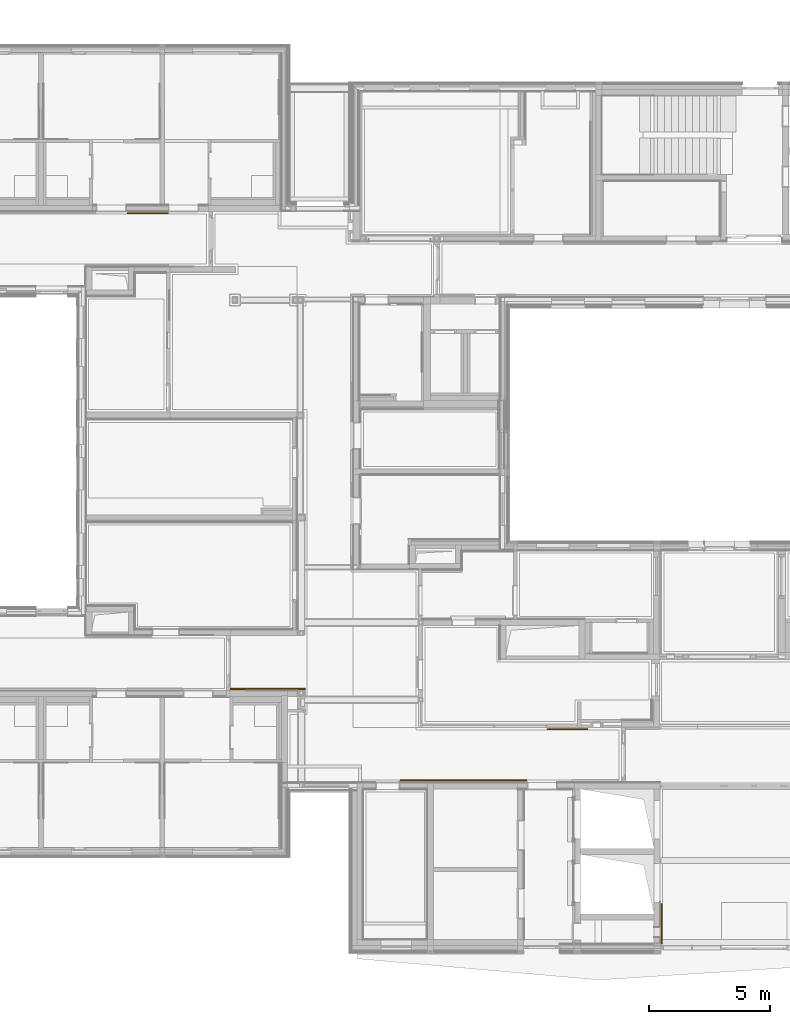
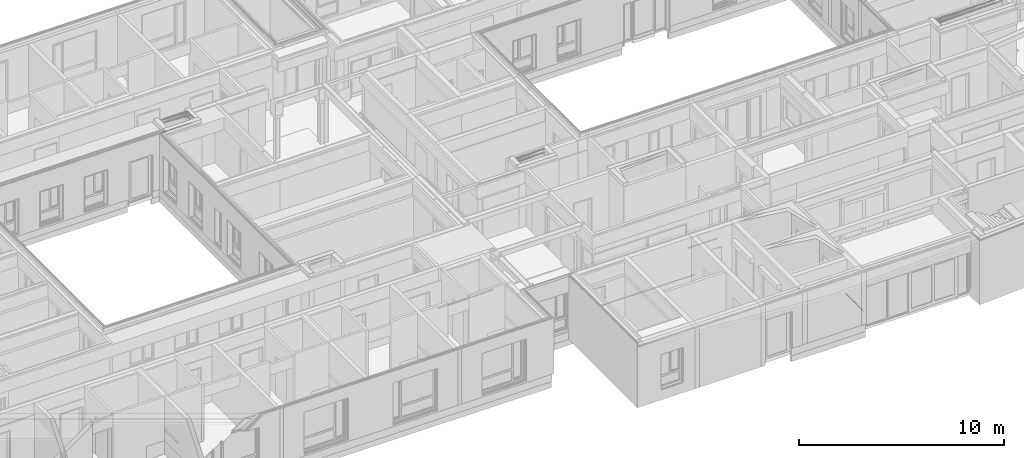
# One storey, part 196 of 207: 5 railings, 5 elements without a shape of their own.
"""IFC4 building model written with IfcOpenShell, lengths in metres."""

import ifcopenshell
import ifcopenshell.guid

model = None  # the IFC model being written
_history = None  # IfcOwnerHistory: only IFC2X3 demands one
_inside = {}  # id of a spatial element -> (the spatial element, [elements in it])
_under = {}  # id of a project, library or spatial element -> (it, [spatial elements below it])
_declared = {}  # id of a project -> (the project, [libraries it declares])
_typed = {}  # id of a type object -> (the type object, [elements of that type])
_made_of = {}  # id of a material, layer set ... -> (it, [elements and type objects made of it])


def new_model(schema):
    """Start an empty IFC model of exactly this schema.

    Asked for "IFC4X3", IfcOpenShell would pick the latest addendum, in which some entities
    have other attributes; the version numbers below select the first issue.
    IFC2X3 requires an IfcOwnerHistory on every rooted entity: one is made here for all.
    """
    global model, _history
    if schema == "IFC4X3":
        model = ifcopenshell.file(schema_version=(4, 3, 0, 0))
    else:
        model = ifcopenshell.file(schema=schema)
    _inside.clear()
    _under.clear()
    _declared.clear()
    _typed.clear()
    _made_of.clear()
    _history = None
    if model.schema == "IFC2X3":
        org = make("IfcOrganization", Name="unknown")
        user = make(
            "IfcPersonAndOrganization",
            ThePerson=make("IfcPerson", FamilyName="unknown"),
            TheOrganization=org,
        )
        app = make(
            "IfcApplication",
            ApplicationDeveloper=org,
            Version="unknown",
            ApplicationFullName="unknown",
            ApplicationIdentifier="unknown",
        )
        _history = make(
            "IfcOwnerHistory",
            OwningUser=user,
            OwningApplication=app,
            ChangeAction="ADDED",
            CreationDate=0,
        )
    return model


def make(cls, **values):
    """One entity of the class cls with the attributes given. An attribute that is None is left unset."""
    return model.create_entity(
        cls, **{name: value for name, value in values.items() if value is not None}
    )


def entity(cls, *values):
    """Any entity or typed value of the class cls, its attributes in the order of the schema. None: left unset."""
    e = model.create_entity(cls)
    for i, value in enumerate(values):
        if value is not None:
            e[i] = value
    return e


def rooted(cls, **values):
    """An entity with a GlobalId (a new one), such as an element, a storey or a relation."""
    return make(cls, GlobalId=ifcopenshell.guid.new(), OwnerHistory=_history, **values)


def si_unit(unit_type, name, prefix=None):
    """IfcSIUnit, for example si_unit("LENGTHUNIT", "METRE", prefix="MILLI")."""
    return make("IfcSIUnit", UnitType=unit_type, Prefix=prefix, Name=name)


def converted_unit(unit_type, name, factor, base, dimensions=None, offset=None):
    """IfcConversionBasedUnit, such as the inch: factor (a typed value) times the base unit."""
    return make(
        "IfcConversionBasedUnit"
        if offset is None
        else "IfcConversionBasedUnitWithOffset",
        ConversionOffset=offset,
        Dimensions=None
        if dimensions is None
        else entity("IfcDimensionalExponents", *dimensions),
        UnitType=unit_type,
        Name=name,
        ConversionFactor=make(
            "IfcMeasureWithUnit", ValueComponent=factor, UnitComponent=base
        ),
    )


def derived_unit(unit_type, elements):
    """IfcDerivedUnit: a product of units, each with its exponent."""
    return make(
        "IfcDerivedUnit",
        Elements=[
            make("IfcDerivedUnitElement", Unit=unit, Exponent=power)
            for unit, power in elements
        ],
        UnitType=unit_type,
    )


def assignment(units):
    """IfcUnitAssignment: the units of a project."""
    return None if units is None else make("IfcUnitAssignment", Units=units)


def point(xyz):
    """IfcCartesianPoint."""
    return None if xyz is None else make("IfcCartesianPoint", Coordinates=xyz)


def direction(xyz):
    """IfcDirection."""
    return None if xyz is None else make("IfcDirection", DirectionRatios=xyz)


def frame(location, z_axis=None, x_axis=None):
    """IfcAxis2Placement3D, a coordinate frame: its origin and axes. An axis left out is left unset."""
    return make(
        "IfcAxis2Placement3D",
        Location=point(location),
        Axis=direction(z_axis),
        RefDirection=direction(x_axis),
    )


def origin():
    """The frame at (0, 0, 0) with its axes left unset."""
    return frame((0.0, 0.0, 0.0))


def place(relative_to, where):
    """IfcLocalPlacement: puts the frame where relative to a parent placement (None: the world)."""
    return make(
        "IfcLocalPlacement", PlacementRelTo=relative_to, RelativePlacement=where
    )


def context(
    kind, dimensions, precision=None, world=None, true_north=None, identifier=None
):
    """IfcGeometricRepresentationContext, for example the 3D "Model" context."""
    return make(
        "IfcGeometricRepresentationContext",
        ContextIdentifier=identifier,
        ContextType=kind,
        CoordinateSpaceDimension=dimensions,
        Precision=precision,
        WorldCoordinateSystem=world,
        TrueNorth=true_north,
    )


def subcontext(parent, identifier, kind, view, scale=None):
    """IfcGeometricRepresentationSubContext, for example "Body" below "Model"."""
    return make(
        "IfcGeometricRepresentationSubContext",
        ContextIdentifier=identifier,
        ContextType=kind,
        ParentContext=parent,
        TargetScale=scale,
        TargetView=view,
    )


def project(units=None, contexts=None):
    """IfcProject with its units and contexts."""
    return rooted(
        "IfcProject",
        Name="project",
        RepresentationContexts=contexts,
        UnitsInContext=assignment(units),
    )


def spatial(cls, under=None, at=None, **own):
    """A site, building, storey or space (cls), placed at a placement, below another one or the project."""
    s = rooted(cls, ObjectPlacement=at, **own)
    if under is not None:
        _under.setdefault(under.id(), (under, []))[1].append(s)
    return s


def faces_of(points, faces, orient=None, outer=None):
    """IfcFace entities. A face is a list of loops; a loop is a list of indices into points, from 0.

    orient and outer hold one flag for each loop. By default every Orientation is true, the
    first loop of a face is its IfcFaceOuterBound and the others are IfcFaceBound.
    """
    made = []
    for i, loops in enumerate(faces):
        bounds = []
        for j, loop in enumerate(loops):
            is_outer = j == 0 if outer is None else outer[i][j]
            bounds.append(
                make(
                    "IfcFaceOuterBound" if is_outer else "IfcFaceBound",
                    Bound=make("IfcPolyLoop", Polygon=[points[k] for k in loop]),
                    Orientation=True if orient is None else orient[i][j],
                )
            )
        made.append(make("IfcFace", Bounds=bounds))
    return made


def faceted_brep(points, faces, orient=None, outer=None, voids=None):
    """IfcFacetedBrep: a solid bounded by flat faces; with voids (closed shells), ...WithVoids."""
    shared = [point(p) for p in points]
    hull = make("IfcClosedShell", CfsFaces=faces_of(shared, faces, orient, outer))
    if voids is None:
        return make("IfcFacetedBrep", Outer=hull)
    return make(
        "IfcFacetedBrepWithVoids",
        Outer=hull,
        Voids=[
            make(cls, CfsFaces=faces_of(shared, fs, o, b)) for cls, fs, o, b in voids
        ],
    )


def shape(context_of_items, identifier, shape_type, items):
    """IfcShapeRepresentation: the items that make up one representation, for example the "Body"."""
    return make(
        "IfcShapeRepresentation",
        ContextOfItems=context_of_items,
        RepresentationIdentifier=identifier,
        RepresentationType=shape_type,
        Items=items,
    )


def material(Name=None, Category=None):
    """IfcMaterial."""
    return make("IfcMaterial", Name=Name, Category=Category)


def made_of(thing, what):
    """Note that an element or type object is made of a material, layer set ...; save() writes the relation."""
    if what is not None:
        _made_of.setdefault(what.id(), (what, []))[1].append(thing)
    return thing


def element(
    cls,
    number,
    at=None,
    inside=None,
    cuts=None,
    type_object=None,
    material=None,
    context=None,
    identifier="Body",
    shape_type=None,
    held_by="IfcProductDefinitionShape",
    body=None,
    shapes=None,
    **own,
):
    """One element of the class cls, such as IfcWall. Its Tag is "e" and its number.

    at: its placement. inside: the storey or other place that contains it. cuts: it is an
    opening in that element (IfcRelVoidsElement). A single representation is given by context,
    identifier, shape_type and body (its items); several are given by shapes. held_by: the class
    of the entity that holds the representations. save() writes the other relations.
    """
    e = rooted(cls, Tag="e%d" % number, ObjectPlacement=at, **own)
    if body is not None:
        shapes = [shape(context, identifier, shape_type, body)]
    if shapes is not None:
        e.Representation = make(held_by, Representations=shapes)
    if inside is not None:
        _inside.setdefault(inside.id(), (inside, []))[1].append(e)
    if cuts is not None:
        rooted(
            "IfcRelVoidsElement", RelatingBuildingElement=cuts, RelatedOpeningElement=e
        )
    if type_object is not None:
        _typed.setdefault(type_object.id(), (type_object, []))[1].append(e)
    return made_of(e, material)


def aggregate(whole, parts):
    """IfcRelAggregates: a whole, such as a stair, and the parts it consists of."""
    return rooted("IfcRelAggregates", RelatingObject=whole, RelatedObjects=parts)


def save(model, path):
    """Write the relations noted so far, then the file.

    IfcRelAggregates (storeys below a building ...), IfcRelContainedInSpatialStructure (elements
    in a storey), IfcRelDefinesByType, IfcRelAssociatesMaterial and IfcRelDeclares: one each for
    every whole, place, type object, material and project.
    """
    for whole, parts in _under.values():
        aggregate(whole, parts)
    for where, things in _inside.values():
        rooted(
            "IfcRelContainedInSpatialStructure",
            RelatedElements=things,
            RelatingStructure=where,
        )
    for kind, things in _typed.values():
        rooted("IfcRelDefinesByType", RelatedObjects=things, RelatingType=kind)
    for what, things in _made_of.values():
        rooted("IfcRelAssociatesMaterial", RelatedObjects=things, RelatingMaterial=what)
    for by, libraries in _declared.values():
        rooted("IfcRelDeclares", RelatingContext=by, RelatedDefinitions=libraries)
    model.write(path)


model = new_model("IFC4")

# Units and contexts
model_context = context("Model", 3, precision=1e-05, world=origin())
body_context = subcontext(model_context, "Body", "Model", "MODEL_VIEW")
ifc_project = project(units=[si_unit("LENGTHUNIT", "METRE"), si_unit("AREAUNIT", "SQUARE_METRE"), si_unit("VOLUMEUNIT", "CUBIC_METRE"), si_unit("MASSUNIT", "GRAM", prefix="KILO"), converted_unit("PLANEANGLEUNIT", "DEGREE", entity("IfcPlaneAngleMeasure", 0.0174532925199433), si_unit("PLANEANGLEUNIT", "RADIAN"), dimensions=[0, 0, 0, 0, 0, 0, 0]), derived_unit("THERMALTRANSMITTANCEUNIT", [(si_unit("POWERUNIT", "WATT"), 1), (si_unit("THERMODYNAMICTEMPERATUREUNIT", "KELVIN"), -1), (si_unit("LENGTHUNIT", "METRE"), -2)]), derived_unit("VOLUMETRICFLOWRATEUNIT", [(si_unit("LENGTHUNIT", "METRE"), 3), (converted_unit("TIMEUNIT", "hour", entity("IfcTimeMeasure", 3600.0), si_unit("TIMEUNIT", "SECOND"), dimensions=[0, 0, 1, 0, 0, 0, 0]), -1), (si_unit("LENGTHUNIT", "METRE"), -1)])], contexts=[model_context])

# Site, building, storey
site_placement = place(None, origin())
site = spatial("IfcSite", under=ifc_project, at=site_placement, Name="Psychiatrie Neubau Wunstorf", CompositionType="ELEMENT")
building_placement = place(site_placement, origin())
building = spatial("IfcBuilding", under=site, at=building_placement, Name="Neubau H2 Stationsgebäude", CompositionType="ELEMENT")
storey_placement = place(building_placement, frame((0.0, 0.0, -0.2)))
storey = spatial("IfcBuildingStorey", under=building, at=storey_placement, Name="H2 Ebene 0", CompositionType="ELEMENT", Elevation=-0.2)

# Assembly, railing
assembly_1_placement = place(storey_placement, frame((0.0, 0.0, 0.2)))
assembly_1 = element("IfcElementAssembly", 1, at=assembly_1_placement, inside=storey, Name="Geländer+Abstand", PredefinedType="NOTDEFINED")
ifc_material_1 = material(Name="Holz")
railing_1_placement = place(assembly_1_placement, frame((28.55, 24.0175000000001, 0.8)))
railing_1 = element("IfcRailing", 2, at=railing_1_placement, material=ifc_material_1, context=body_context, shape_type="Brep", body=[
    faceted_brep([(0.0, 0.025, 0.000103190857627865), (0.0, 0.0293232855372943, 0.000481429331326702), (0.0, 0.0335152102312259, 0.00160465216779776), (0.0, 0.0374484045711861, 0.00343873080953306), (0.0, 0.0410033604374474, 0.00592793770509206), (0.0, 0.0440720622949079, 0.00899663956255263), (0.0, 0.0465612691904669, 0.0125515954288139), (0.0, 0.0483953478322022, 0.0164847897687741), (0.0, 0.0495185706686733, 0.0206767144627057), (0.0, 0.0498968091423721, 0.025), (0.0, 0.0495185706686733, 0.0293232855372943), (0.0, 0.0483953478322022, 0.0335152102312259), (0.0, 0.0465612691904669, 0.0374484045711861), (0.0, 0.0440720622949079, 0.0410033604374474), (0.0, 0.0410033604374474, 0.0440720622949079), (0.0, 0.0374484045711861, 0.0465612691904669), (0.0, 0.0335152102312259, 0.0483953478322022), (0.0, 0.0293232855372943, 0.0495185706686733), (0.0, 0.025, 0.0498968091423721), (0.0, 0.0206767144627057, 0.0495185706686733), (0.0, 0.0164847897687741, 0.0483953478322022), (0.0, 0.0125515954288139, 0.0465612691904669), (0.0, 0.00899663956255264, 0.044072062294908), (0.0, 0.00592793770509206, 0.0410033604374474), (0.0, 0.00343873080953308, 0.0374484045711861), (0.0, 0.00160465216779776, 0.0335152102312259), (0.0, 0.000481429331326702, 0.0293232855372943), (0.0, 0.000103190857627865, 0.025), (0.0, 0.000481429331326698, 0.0206767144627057), (0.0, 0.00160465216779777, 0.0164847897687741), (0.0, 0.00343873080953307, 0.0125515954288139), (0.0, 0.00592793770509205, 0.00899663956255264), (0.0, 0.00899663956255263, 0.00592793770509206), (0.0, 0.0125515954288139, 0.00343873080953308), (0.0, 0.0164847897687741, 0.00160465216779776), (0.0, 0.0206767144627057, 0.000481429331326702), (1.68901332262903, 0.025, 0.000103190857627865), (1.68901332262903, 0.0206767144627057, 0.000481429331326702), (1.68901332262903, 0.0164847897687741, 0.00160465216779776), (1.68901332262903, 0.0125515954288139, 0.00343873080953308), (1.68901332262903, 0.00899663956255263, 0.00592793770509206), (1.68901332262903, 0.00592793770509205, 0.00899663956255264), (1.68901332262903, 0.00343873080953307, 0.0125515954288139), (1.68901332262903, 0.00160465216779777, 0.0164847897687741), (1.68901332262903, 0.000481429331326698, 0.0206767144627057), (1.68901332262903, 0.000103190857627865, 0.025), (1.68901332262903, 0.000481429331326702, 0.0293232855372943), (1.68901332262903, 0.00160465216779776, 0.0335152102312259), (1.68901332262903, 0.00343873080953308, 0.0374484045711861), (1.68901332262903, 0.00592793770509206, 0.0410033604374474), (1.68901332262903, 0.00899663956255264, 0.044072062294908), (1.68901332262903, 0.0125515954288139, 0.0465612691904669), (1.68901332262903, 0.0164847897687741, 0.0483953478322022), (1.68901332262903, 0.0206767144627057, 0.0495185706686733), (1.68901332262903, 0.025, 0.0498968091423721), (1.68901332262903, 0.0293232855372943, 0.0495185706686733), (1.68901332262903, 0.0335152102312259, 0.0483953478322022), (1.68901332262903, 0.0374484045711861, 0.0465612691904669), (1.68901332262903, 0.0410033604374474, 0.0440720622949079), (1.68901332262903, 0.0440720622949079, 0.0410033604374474), (1.68901332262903, 0.0465612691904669, 0.0374484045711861), (1.68901332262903, 0.0483953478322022, 0.0335152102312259), (1.68901332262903, 0.0495185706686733, 0.0293232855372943), (1.68901332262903, 0.0498968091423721, 0.025), (1.68901332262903, 0.0495185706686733, 0.0206767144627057), (1.68901332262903, 0.0483953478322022, 0.0164847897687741), (1.68901332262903, 0.0465612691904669, 0.0125515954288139), (1.68901332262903, 0.0440720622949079, 0.00899663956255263), (1.68901332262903, 0.0410033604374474, 0.00592793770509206), (1.68901332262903, 0.0374484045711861, 0.00343873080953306), (1.68901332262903, 0.0335152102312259, 0.00160465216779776), (1.68901332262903, 0.0293232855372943, 0.000481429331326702)], [[[0, 1, 2, 3, 4, 5, 6, 7, 8, 9, 10, 11, 12, 13, 14, 15, 16, 17, 18, 19, 20, 21, 22, 23, 24, 25, 26, 27, 28, 29, 30, 31, 32, 33, 34, 35]], [[36, 37, 38, 39, 40, 41, 42, 43, 44, 45, 46, 47, 48, 49, 50, 51, 52, 53, 54, 55, 56, 57, 58, 59, 60, 61, 62, 63, 64, 65, 66, 67, 68, 69, 70, 71]], [[1, 0, 36, 71]], [[2, 1, 71, 70]], [[3, 2, 70, 69]], [[4, 3, 69, 68]], [[5, 4, 68, 67]], [[6, 5, 67, 66]], [[7, 6, 66, 65]], [[8, 7, 65, 64]], [[9, 8, 64, 63]], [[10, 9, 63, 62]], [[11, 10, 62, 61]], [[12, 11, 61, 60]], [[13, 12, 60, 59]], [[14, 13, 59, 58]], [[15, 14, 58, 57]], [[16, 15, 57, 56]], [[17, 16, 56, 55]], [[18, 17, 55, 54]], [[19, 18, 54, 53]], [[20, 19, 53, 52]], [[21, 20, 52, 51]], [[22, 21, 51, 50]], [[23, 22, 50, 49]], [[24, 23, 49, 48]], [[25, 24, 48, 47]], [[26, 25, 47, 46]], [[27, 26, 46, 45]], [[28, 27, 45, 44]], [[29, 28, 44, 43]], [[30, 29, 43, 42]], [[31, 30, 42, 41]], [[32, 31, 41, 40]], [[33, 32, 40, 39]], [[34, 33, 39, 38]], [[35, 34, 38, 37]], [[0, 35, 37, 36]]], orient=[[False], [False], [False], [False], [False], [False], [False], [False], [False], [False], [False], [False], [False], [False], [False], [False], [False], [False], [False], [False], [False], [False], [False], [False], [False], [False], [False], [False], [False], [False], [False], [False], [False], [False], [False], [False], [False], [False]]),
])
aggregate(assembly_1, [railing_1])

assembly_2_placement = place(storey_placement, frame((0.0, 0.0, 0.2)))
assembly_2 = element("IfcElementAssembly", 3, at=assembly_2_placement, inside=storey, Name="Geländer+Abstand", PredefinedType="NOTDEFINED")
ifc_material_2 = material(Name="Holz")
railing_2_placement = place(assembly_2_placement, frame((32.8184999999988, 4.38074963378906, 0.8)))
railing_2 = element("IfcRailing", 4, at=railing_2_placement, material=ifc_material_2, context=body_context, shape_type="Brep", body=[
    faceted_brep([(3.08249501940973, 0.000103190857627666, 0.025), (3.08249501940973, 0.000481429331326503, 0.0293232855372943), (3.08249501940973, 0.00160465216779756, 0.0335152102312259), (3.08249501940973, 0.00343873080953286, 0.0374484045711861), (3.08249501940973, 0.00592793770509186, 0.0410033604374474), (3.08249501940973, 0.00899663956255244, 0.0440720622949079), (3.08249501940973, 0.0125515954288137, 0.0465612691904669), (3.08249501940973, 0.0164847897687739, 0.0483953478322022), (3.08249501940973, 0.0206767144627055, 0.0495185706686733), (3.08249501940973, 0.0249999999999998, 0.0498968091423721), (3.08249501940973, 0.0293232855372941, 0.0495185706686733), (3.08249501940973, 0.0335152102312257, 0.0483953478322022), (3.08249501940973, 0.0374484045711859, 0.0465612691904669), (3.08249501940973, 0.0410033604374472, 0.0440720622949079), (3.08249501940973, 0.0440720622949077, 0.0410033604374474), (3.08249501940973, 0.0465612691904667, 0.0374484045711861), (3.08249501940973, 0.048395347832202, 0.0335152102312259), (3.08249501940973, 0.0495185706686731, 0.0293232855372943), (3.08249501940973, 0.0498968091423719, 0.025), (3.08249501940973, 0.0495185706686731, 0.0206767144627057), (3.08249501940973, 0.048395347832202, 0.0164847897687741), (3.08249501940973, 0.0465612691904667, 0.0125515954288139), (3.08249501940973, 0.0440720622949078, 0.00899663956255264), (3.08249501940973, 0.0410033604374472, 0.00592793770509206), (3.08249501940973, 0.0374484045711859, 0.00343873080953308), (3.08249501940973, 0.0335152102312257, 0.00160465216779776), (3.08249501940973, 0.0293232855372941, 0.000481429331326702), (3.08249501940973, 0.0249999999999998, 0.000103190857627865), (3.08249501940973, 0.0206767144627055, 0.000481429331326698), (3.08249501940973, 0.0164847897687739, 0.00160465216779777), (3.08249501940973, 0.0125515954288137, 0.00343873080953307), (3.08249501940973, 0.00899663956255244, 0.00592793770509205), (3.08249501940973, 0.00592793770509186, 0.00899663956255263), (3.08249501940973, 0.00343873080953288, 0.0125515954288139), (3.08249501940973, 0.00160465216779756, 0.0164847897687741), (3.08249501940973, 0.000481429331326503, 0.0206767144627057), (0.0, 0.000103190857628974, 0.025), (0.0, 0.00048142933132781, 0.0206767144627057), (0.0, 0.00160465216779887, 0.0164847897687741), (0.0, 0.00343873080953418, 0.0125515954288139), (0.0, 0.00592793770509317, 0.00899663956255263), (0.0, 0.00899663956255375, 0.00592793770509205), (0.0, 0.012551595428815, 0.00343873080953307), (0.0, 0.0164847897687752, 0.00160465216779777), (0.0, 0.0206767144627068, 0.000481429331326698), (0.0, 0.0250000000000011, 0.000103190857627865), (0.0, 0.0293232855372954, 0.000481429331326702), (0.0, 0.033515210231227, 0.00160465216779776), (0.0, 0.0374484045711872, 0.00343873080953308), (0.0, 0.0410033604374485, 0.00592793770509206), (0.0, 0.0440720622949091, 0.00899663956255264), (0.0, 0.046561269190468, 0.0125515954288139), (0.0, 0.0483953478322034, 0.0164847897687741), (0.0, 0.0495185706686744, 0.0206767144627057), (0.0, 0.0498968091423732, 0.025), (0.0, 0.0495185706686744, 0.0293232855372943), (0.0, 0.0483953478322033, 0.0335152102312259), (0.0, 0.046561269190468, 0.0374484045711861), (0.0, 0.0440720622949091, 0.0410033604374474), (0.0, 0.0410033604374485, 0.0440720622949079), (0.0, 0.0374484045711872, 0.0465612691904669), (0.0, 0.033515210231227, 0.0483953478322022), (0.0, 0.0293232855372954, 0.0495185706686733), (0.0, 0.0250000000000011, 0.0498968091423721), (0.0, 0.0206767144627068, 0.0495185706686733), (0.0, 0.0164847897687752, 0.0483953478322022), (0.0, 0.012551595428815, 0.0465612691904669), (0.0, 0.00899663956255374, 0.0440720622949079), (0.0, 0.00592793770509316, 0.0410033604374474), (0.0, 0.00343873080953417, 0.0374484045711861), (0.0, 0.00160465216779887, 0.0335152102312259), (0.0, 0.00048142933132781, 0.0293232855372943)], [[[0, 1, 2, 3, 4, 5, 6, 7, 8, 9, 10, 11, 12, 13, 14, 15, 16, 17, 18, 19, 20, 21, 22, 23, 24, 25, 26, 27, 28, 29, 30, 31, 32, 33, 34, 35]], [[36, 37, 38, 39, 40, 41, 42, 43, 44, 45, 46, 47, 48, 49, 50, 51, 52, 53, 54, 55, 56, 57, 58, 59, 60, 61, 62, 63, 64, 65, 66, 67, 68, 69, 70, 71]], [[1, 0, 36, 71]], [[2, 1, 71, 70]], [[3, 2, 70, 69]], [[4, 3, 69, 68]], [[5, 4, 68, 67]], [[6, 5, 67, 66]], [[7, 6, 66, 65]], [[8, 7, 65, 64]], [[9, 8, 64, 63]], [[10, 9, 63, 62]], [[11, 10, 62, 61]], [[12, 11, 61, 60]], [[13, 12, 60, 59]], [[14, 13, 59, 58]], [[15, 14, 58, 57]], [[16, 15, 57, 56]], [[17, 16, 56, 55]], [[18, 17, 55, 54]], [[19, 18, 54, 53]], [[20, 19, 53, 52]], [[21, 20, 52, 51]], [[22, 21, 51, 50]], [[23, 22, 50, 49]], [[24, 23, 49, 48]], [[25, 24, 48, 47]], [[26, 25, 47, 46]], [[27, 26, 46, 45]], [[28, 27, 45, 44]], [[29, 28, 44, 43]], [[30, 29, 43, 42]], [[31, 30, 42, 41]], [[32, 31, 41, 40]], [[33, 32, 40, 39]], [[34, 33, 39, 38]], [[35, 34, 38, 37]], [[0, 35, 37, 36]]], orient=[[False], [False], [False], [False], [False], [False], [False], [False], [False], [False], [False], [False], [False], [False], [False], [False], [False], [False], [False], [False], [False], [False], [False], [False], [False], [False], [False], [False], [False], [False], [False], [False], [False], [False], [False], [False], [False], [False]]),
])
aggregate(assembly_2, [railing_2])

assembly_3_placement = place(storey_placement, frame((0.0, 0.0, 0.2)))
assembly_3 = element("IfcElementAssembly", 5, at=assembly_3_placement, inside=storey, Name="Geländer+Abstand", PredefinedType="NOTDEFINED")
ifc_material_3 = material(Name="Holz")
railing_3_placement = place(assembly_3_placement, frame((39.8250000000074, 0.598999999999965, 0.8)))
railing_3 = element("IfcRailing", 6, at=railing_3_placement, material=ifc_material_3, context=body_context, shape_type="Brep", body=[
    faceted_brep([(5.215004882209, 0.000103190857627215, 0.025), (5.215004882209, 0.000481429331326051, 0.0293232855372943), (5.215004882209, 0.00160465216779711, 0.0335152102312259), (5.215004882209, 0.00343873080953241, 0.0374484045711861), (5.215004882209, 0.00592793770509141, 0.0410033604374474), (5.215004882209, 0.00899663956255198, 0.0440720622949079), (5.215004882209, 0.0125515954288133, 0.0465612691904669), (5.215004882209, 0.0164847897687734, 0.0483953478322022), (5.215004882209, 0.0206767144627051, 0.0495185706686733), (5.215004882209, 0.0249999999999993, 0.0498968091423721), (5.215004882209, 0.0293232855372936, 0.0495185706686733), (5.215004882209, 0.0335152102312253, 0.0483953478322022), (5.215004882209, 0.0374484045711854, 0.0465612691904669), (5.215004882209, 0.0410033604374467, 0.0440720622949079), (5.215004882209, 0.0440720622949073, 0.0410033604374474), (5.215004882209, 0.0465612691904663, 0.0374484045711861), (5.215004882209, 0.0483953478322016, 0.0335152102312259), (5.215004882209, 0.0495185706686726, 0.0293232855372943), (5.215004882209, 0.0498968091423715, 0.025), (5.215004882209, 0.0495185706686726, 0.0206767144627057), (5.215004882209, 0.0483953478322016, 0.0164847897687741), (5.215004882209, 0.0465612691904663, 0.0125515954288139), (5.215004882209, 0.0440720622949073, 0.00899663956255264), (5.215004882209, 0.0410033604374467, 0.00592793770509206), (5.215004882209, 0.0374484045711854, 0.00343873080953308), (5.215004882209, 0.0335152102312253, 0.00160465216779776), (5.215004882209, 0.0293232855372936, 0.000481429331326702), (5.215004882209, 0.0249999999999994, 0.000103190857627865), (5.215004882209, 0.0206767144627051, 0.000481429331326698), (5.215004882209, 0.0164847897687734, 0.00160465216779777), (5.215004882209, 0.0125515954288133, 0.00343873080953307), (5.215004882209, 0.00899663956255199, 0.00592793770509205), (5.215004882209, 0.00592793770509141, 0.00899663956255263), (5.215004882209, 0.00343873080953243, 0.0125515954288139), (5.215004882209, 0.00160465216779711, 0.0164847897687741), (5.215004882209, 0.000481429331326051, 0.0206767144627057), (0.0, 0.000103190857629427, 0.025), (0.0, 0.000481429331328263, 0.0206767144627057), (0.0, 0.00160465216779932, 0.0164847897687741), (0.0, 0.00343873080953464, 0.0125515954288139), (0.0, 0.00592793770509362, 0.00899663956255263), (0.0, 0.0089966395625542, 0.00592793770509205), (0.0, 0.0125515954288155, 0.00343873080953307), (0.0, 0.0164847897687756, 0.00160465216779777), (0.0, 0.0206767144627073, 0.000481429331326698), (0.0, 0.0250000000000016, 0.000103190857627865), (0.0, 0.0293232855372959, 0.000481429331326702), (0.0, 0.0335152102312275, 0.00160465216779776), (0.0, 0.0374484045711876, 0.00343873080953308), (0.0, 0.0410033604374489, 0.00592793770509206), (0.0, 0.0440720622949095, 0.00899663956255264), (0.0, 0.0465612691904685, 0.0125515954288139), (0.0, 0.0483953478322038, 0.0164847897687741), (0.0, 0.0495185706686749, 0.0206767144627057), (0.0, 0.0498968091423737, 0.025), (0.0, 0.0495185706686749, 0.0293232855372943), (0.0, 0.0483953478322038, 0.0335152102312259), (0.0, 0.0465612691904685, 0.0374484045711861), (0.0, 0.0440720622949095, 0.0410033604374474), (0.0, 0.0410033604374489, 0.0440720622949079), (0.0, 0.0374484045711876, 0.0465612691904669), (0.0, 0.0335152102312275, 0.0483953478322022), (0.0, 0.0293232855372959, 0.0495185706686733), (0.0, 0.0250000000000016, 0.0498968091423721), (0.0, 0.0206767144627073, 0.0495185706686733), (0.0, 0.0164847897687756, 0.0483953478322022), (0.0, 0.0125515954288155, 0.0465612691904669), (0.0, 0.00899663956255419, 0.0440720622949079), (0.0, 0.00592793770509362, 0.0410033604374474), (0.0, 0.00343873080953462, 0.0374484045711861), (0.0, 0.00160465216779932, 0.0335152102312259), (0.0, 0.000481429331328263, 0.0293232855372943)], [[[0, 1, 2, 3, 4, 5, 6, 7, 8, 9, 10, 11, 12, 13, 14, 15, 16, 17, 18, 19, 20, 21, 22, 23, 24, 25, 26, 27, 28, 29, 30, 31, 32, 33, 34, 35]], [[36, 37, 38, 39, 40, 41, 42, 43, 44, 45, 46, 47, 48, 49, 50, 51, 52, 53, 54, 55, 56, 57, 58, 59, 60, 61, 62, 63, 64, 65, 66, 67, 68, 69, 70, 71]], [[1, 0, 36, 71]], [[2, 1, 71, 70]], [[3, 2, 70, 69]], [[4, 3, 69, 68]], [[5, 4, 68, 67]], [[6, 5, 67, 66]], [[7, 6, 66, 65]], [[8, 7, 65, 64]], [[9, 8, 64, 63]], [[10, 9, 63, 62]], [[11, 10, 62, 61]], [[12, 11, 61, 60]], [[13, 12, 60, 59]], [[14, 13, 59, 58]], [[15, 14, 58, 57]], [[16, 15, 57, 56]], [[17, 16, 56, 55]], [[18, 17, 55, 54]], [[19, 18, 54, 53]], [[20, 19, 53, 52]], [[21, 20, 52, 51]], [[22, 21, 51, 50]], [[23, 22, 50, 49]], [[24, 23, 49, 48]], [[25, 24, 48, 47]], [[26, 25, 47, 46]], [[27, 26, 46, 45]], [[28, 27, 45, 44]], [[29, 28, 44, 43]], [[30, 29, 43, 42]], [[31, 30, 42, 41]], [[32, 31, 41, 40]], [[33, 32, 40, 39]], [[34, 33, 39, 38]], [[35, 34, 38, 37]], [[0, 35, 37, 36]]], orient=[[False], [False], [False], [False], [False], [False], [False], [False], [False], [False], [False], [False], [False], [False], [False], [False], [False], [False], [False], [False], [False], [False], [False], [False], [False], [False], [False], [False], [False], [False], [False], [False], [False], [False], [False], [False], [False], [False]]),
])
aggregate(assembly_3, [railing_3])

assembly_4_placement = place(storey_placement, frame((0.0, 0.0, 0.2)))
assembly_4 = element("IfcElementAssembly", 7, at=assembly_4_placement, inside=storey, Name="Geländer+Abstand", PredefinedType="NOTDEFINED")
ifc_material_4 = material(Name="Holz")
railing_4_placement = place(assembly_4_placement, frame((50.6000000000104, -6.12100030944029, 0.8)))
railing_4 = element("IfcRailing", 8, at=railing_4_placement, material=ifc_material_4, context=body_context, shape_type="Brep", body=[
    faceted_brep([(0.025, 0.0, 0.0498968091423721), (0.0293232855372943, 0.0, 0.0495185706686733), (0.0335152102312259, 0.0, 0.0483953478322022), (0.0374484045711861, 0.0, 0.0465612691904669), (0.0410033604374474, 0.0, 0.0440720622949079), (0.0440720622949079, 0.0, 0.0410033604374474), (0.0465612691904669, 0.0, 0.0374484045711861), (0.0483953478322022, 0.0, 0.0335152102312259), (0.0495185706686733, 0.0, 0.0293232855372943), (0.0498968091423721, 0.0, 0.025), (0.0495185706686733, 0.0, 0.0206767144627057), (0.0483953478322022, 0.0, 0.0164847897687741), (0.0465612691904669, 0.0, 0.0125515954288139), (0.0440720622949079, 0.0, 0.00899663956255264), (0.0410033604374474, 0.0, 0.00592793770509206), (0.0374484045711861, 0.0, 0.00343873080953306), (0.0335152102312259, 0.0, 0.00160465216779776), (0.0293232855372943, 0.0, 0.000481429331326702), (0.025, 0.0, 0.000103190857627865), (0.0206767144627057, 0.0, 0.000481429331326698), (0.0164847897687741, 0.0, 0.00160465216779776), (0.0125515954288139, 0.0, 0.00343873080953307), (0.00899663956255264, 0.0, 0.00592793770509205), (0.00592793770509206, 0.0, 0.00899663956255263), (0.00343873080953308, 0.0, 0.0125515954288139), (0.00160465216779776, 0.0, 0.0164847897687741), (0.000481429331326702, 0.0, 0.0206767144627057), (0.000103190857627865, 0.0, 0.025), (0.000481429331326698, 0.0, 0.0293232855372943), (0.00160465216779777, 0.0, 0.0335152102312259), (0.00343873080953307, 0.0, 0.0374484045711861), (0.00592793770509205, 0.0, 0.0410033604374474), (0.00899663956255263, 0.0, 0.0440720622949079), (0.0125515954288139, 0.0, 0.0465612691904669), (0.0164847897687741, 0.0, 0.0483953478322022), (0.0206767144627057, 0.0, 0.0495185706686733), (0.025, 1.66101220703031, 0.0498968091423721), (0.0206767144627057, 1.66101220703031, 0.0495185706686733), (0.0164847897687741, 1.66101220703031, 0.0483953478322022), (0.0125515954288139, 1.66101220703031, 0.0465612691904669), (0.00899663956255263, 1.66101220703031, 0.0440720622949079), (0.00592793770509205, 1.66101220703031, 0.0410033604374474), (0.00343873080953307, 1.66101220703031, 0.0374484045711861), (0.00160465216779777, 1.66101220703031, 0.0335152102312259), (0.000481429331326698, 1.66101220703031, 0.0293232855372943), (0.000103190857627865, 1.66101220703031, 0.025), (0.000481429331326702, 1.66101220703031, 0.0206767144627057), (0.00160465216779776, 1.66101220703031, 0.0164847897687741), (0.00343873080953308, 1.66101220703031, 0.0125515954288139), (0.00592793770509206, 1.66101220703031, 0.00899663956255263), (0.00899663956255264, 1.66101220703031, 0.00592793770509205), (0.0125515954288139, 1.66101220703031, 0.00343873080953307), (0.0164847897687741, 1.66101220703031, 0.00160465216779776), (0.0206767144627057, 1.66101220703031, 0.000481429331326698), (0.025, 1.66101220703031, 0.000103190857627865), (0.0293232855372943, 1.66101220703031, 0.000481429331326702), (0.0335152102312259, 1.66101220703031, 0.00160465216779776), (0.0374484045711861, 1.66101220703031, 0.00343873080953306), (0.0410033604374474, 1.66101220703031, 0.00592793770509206), (0.0440720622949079, 1.66101220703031, 0.00899663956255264), (0.0465612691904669, 1.66101220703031, 0.0125515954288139), (0.0483953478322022, 1.66101220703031, 0.0164847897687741), (0.0495185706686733, 1.66101220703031, 0.0206767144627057), (0.0498968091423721, 1.66101220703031, 0.025), (0.0495185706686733, 1.66101220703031, 0.0293232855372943), (0.0483953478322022, 1.66101220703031, 0.0335152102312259), (0.0465612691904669, 1.66101220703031, 0.0374484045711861), (0.0440720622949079, 1.66101220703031, 0.0410033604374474), (0.0410033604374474, 1.66101220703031, 0.0440720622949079), (0.0374484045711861, 1.66101220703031, 0.0465612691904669), (0.0335152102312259, 1.66101220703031, 0.0483953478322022), (0.0293232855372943, 1.66101220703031, 0.0495185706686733)], [[[0, 1, 2, 3, 4, 5, 6, 7, 8, 9, 10, 11, 12, 13, 14, 15, 16, 17, 18, 19, 20, 21, 22, 23, 24, 25, 26, 27, 28, 29, 30, 31, 32, 33, 34, 35]], [[36, 37, 38, 39, 40, 41, 42, 43, 44, 45, 46, 47, 48, 49, 50, 51, 52, 53, 54, 55, 56, 57, 58, 59, 60, 61, 62, 63, 64, 65, 66, 67, 68, 69, 70, 71]], [[1, 0, 36, 71]], [[2, 1, 71, 70]], [[3, 2, 70, 69]], [[4, 3, 69, 68]], [[5, 4, 68, 67]], [[6, 5, 67, 66]], [[7, 6, 66, 65]], [[8, 7, 65, 64]], [[9, 8, 64, 63]], [[10, 9, 63, 62]], [[11, 10, 62, 61]], [[12, 11, 61, 60]], [[13, 12, 60, 59]], [[14, 13, 59, 58]], [[15, 14, 58, 57]], [[16, 15, 57, 56]], [[17, 16, 56, 55]], [[18, 17, 55, 54]], [[19, 18, 54, 53]], [[20, 19, 53, 52]], [[21, 20, 52, 51]], [[22, 21, 51, 50]], [[23, 22, 50, 49]], [[24, 23, 49, 48]], [[25, 24, 48, 47]], [[26, 25, 47, 46]], [[27, 26, 46, 45]], [[28, 27, 45, 44]], [[29, 28, 44, 43]], [[30, 29, 43, 42]], [[31, 30, 42, 41]], [[32, 31, 41, 40]], [[33, 32, 40, 39]], [[34, 33, 39, 38]], [[35, 34, 38, 37]], [[0, 35, 37, 36]]], orient=[[False], [False], [False], [False], [False], [False], [False], [False], [False], [False], [False], [False], [False], [False], [False], [False], [False], [False], [False], [False], [False], [False], [False], [False], [False], [False], [False], [False], [False], [False], [False], [False], [False], [False], [False], [False], [False], [False]]),
])
aggregate(assembly_4, [railing_4])

assembly_5_placement = place(storey_placement, frame((0.0, 0.0, 0.2)))
assembly_5 = element("IfcElementAssembly", 9, at=assembly_5_placement, inside=storey, Name="Geländer+Abstand", PredefinedType="NOTDEFINED")
ifc_material_5 = material(Name="Holz")
railing_5_placement = place(assembly_5_placement, frame((45.8927912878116, 2.7174996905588, 0.8)))
railing_5 = element("IfcRailing", 10, at=railing_5_placement, material=ifc_material_5, context=body_context, shape_type="Brep", body=[
    faceted_brep([(0.0, 0.049896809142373, 0.025), (0.0, 0.0495185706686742, 0.0293232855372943), (0.0, 0.0483953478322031, 0.0335152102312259), (0.0, 0.0465612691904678, 0.0374484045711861), (0.0, 0.0440720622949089, 0.0410033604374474), (0.0, 0.0410033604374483, 0.0440720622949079), (0.0, 0.037448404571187, 0.0465612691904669), (0.0, 0.0335152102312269, 0.0483953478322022), (0.0, 0.0293232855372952, 0.0495185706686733), (0.0, 0.0250000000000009, 0.0498968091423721), (0.0, 0.0206767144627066, 0.0495185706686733), (0.0, 0.016484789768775, 0.0483953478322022), (0.0, 0.0125515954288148, 0.0465612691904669), (0.0, 0.00899663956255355, 0.0440720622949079), (0.0, 0.00592793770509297, 0.0410033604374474), (0.0, 0.00343873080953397, 0.0374484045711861), (0.0, 0.00160465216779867, 0.0335152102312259), (0.0, 0.000481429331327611, 0.0293232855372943), (0.0, 0.000103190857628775, 0.025), (0.0, 0.000481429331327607, 0.0206767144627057), (0.0, 0.00160465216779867, 0.0164847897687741), (0.0, 0.00343873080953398, 0.0125515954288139), (0.0, 0.00592793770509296, 0.00899663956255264), (0.0, 0.00899663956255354, 0.00592793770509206), (0.0, 0.0125515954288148, 0.00343873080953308), (0.0, 0.016484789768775, 0.00160465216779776), (0.0, 0.0206767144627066, 0.000481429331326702), (0.0, 0.0250000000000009, 0.000103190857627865), (0.0, 0.0293232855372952, 0.000481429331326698), (0.0, 0.0335152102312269, 0.00160465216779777), (0.0, 0.037448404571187, 0.00343873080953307), (0.0, 0.0410033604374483, 0.00592793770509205), (0.0, 0.0440720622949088, 0.00899663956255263), (0.0, 0.0465612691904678, 0.0125515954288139), (0.0, 0.0483953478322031, 0.0164847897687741), (0.0, 0.0495185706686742, 0.0206767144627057), (1.66984578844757, 0.0498968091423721, 0.025), (1.66984578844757, 0.0495185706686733, 0.0206767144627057), (1.66984578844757, 0.0483953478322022, 0.0164847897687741), (1.66984578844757, 0.0465612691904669, 0.0125515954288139), (1.66984578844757, 0.0440720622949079, 0.00899663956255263), (1.66984578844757, 0.0410033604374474, 0.00592793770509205), (1.66984578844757, 0.0374484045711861, 0.00343873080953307), (1.66984578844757, 0.0335152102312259, 0.00160465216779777), (1.66984578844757, 0.0293232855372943, 0.000481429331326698), (1.66984578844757, 0.025, 0.000103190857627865), (1.66984578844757, 0.0206767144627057, 0.000481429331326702), (1.66984578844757, 0.0164847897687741, 0.00160465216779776), (1.66984578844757, 0.0125515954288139, 0.00343873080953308), (1.66984578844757, 0.00899663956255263, 0.00592793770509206), (1.66984578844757, 0.00592793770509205, 0.00899663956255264), (1.66984578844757, 0.00343873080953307, 0.0125515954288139), (1.66984578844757, 0.00160465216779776, 0.0164847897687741), (1.66984578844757, 0.000481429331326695, 0.0206767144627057), (1.66984578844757, 0.000103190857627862, 0.025), (1.66984578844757, 0.000481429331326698, 0.0293232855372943), (1.66984578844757, 0.00160465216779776, 0.0335152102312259), (1.66984578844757, 0.00343873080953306, 0.0374484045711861), (1.66984578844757, 0.00592793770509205, 0.0410033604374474), (1.66984578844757, 0.00899663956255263, 0.0440720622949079), (1.66984578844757, 0.0125515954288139, 0.0465612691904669), (1.66984578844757, 0.0164847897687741, 0.0483953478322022), (1.66984578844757, 0.0206767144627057, 0.0495185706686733), (1.66984578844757, 0.025, 0.0498968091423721), (1.66984578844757, 0.0293232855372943, 0.0495185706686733), (1.66984578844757, 0.0335152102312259, 0.0483953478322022), (1.66984578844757, 0.0374484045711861, 0.0465612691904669), (1.66984578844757, 0.0410033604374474, 0.0440720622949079), (1.66984578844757, 0.0440720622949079, 0.0410033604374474), (1.66984578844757, 0.0465612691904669, 0.0374484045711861), (1.66984578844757, 0.0483953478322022, 0.0335152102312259), (1.66984578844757, 0.0495185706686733, 0.0293232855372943)], [[[0, 1, 2, 3, 4, 5, 6, 7, 8, 9, 10, 11, 12, 13, 14, 15, 16, 17, 18, 19, 20, 21, 22, 23, 24, 25, 26, 27, 28, 29, 30, 31, 32, 33, 34, 35]], [[36, 37, 38, 39, 40, 41, 42, 43, 44, 45, 46, 47, 48, 49, 50, 51, 52, 53, 54, 55, 56, 57, 58, 59, 60, 61, 62, 63, 64, 65, 66, 67, 68, 69, 70, 71]], [[1, 0, 36, 71]], [[2, 1, 71, 70]], [[3, 2, 70, 69]], [[4, 3, 69, 68]], [[5, 4, 68, 67]], [[6, 5, 67, 66]], [[7, 6, 66, 65]], [[8, 7, 65, 64]], [[9, 8, 64, 63]], [[10, 9, 63, 62]], [[11, 10, 62, 61]], [[12, 11, 61, 60]], [[13, 12, 60, 59]], [[14, 13, 59, 58]], [[15, 14, 58, 57]], [[16, 15, 57, 56]], [[17, 16, 56, 55]], [[18, 17, 55, 54]], [[19, 18, 54, 53]], [[20, 19, 53, 52]], [[21, 20, 52, 51]], [[22, 21, 51, 50]], [[23, 22, 50, 49]], [[24, 23, 49, 48]], [[25, 24, 48, 47]], [[26, 25, 47, 46]], [[27, 26, 46, 45]], [[28, 27, 45, 44]], [[29, 28, 44, 43]], [[30, 29, 43, 42]], [[31, 30, 42, 41]], [[32, 31, 41, 40]], [[33, 32, 40, 39]], [[34, 33, 39, 38]], [[35, 34, 38, 37]], [[0, 35, 37, 36]]], orient=[[False], [False], [False], [False], [False], [False], [False], [False], [False], [False], [False], [False], [False], [False], [False], [False], [False], [False], [False], [False], [False], [False], [False], [False], [False], [False], [False], [False], [False], [False], [False], [False], [False], [False], [False], [False], [False], [False]]),
])
aggregate(assembly_5, [railing_5])

save(model, "model.ifc")
